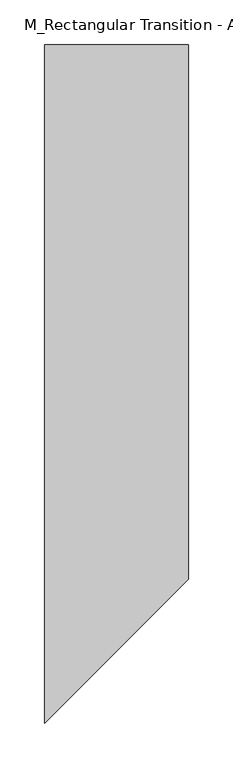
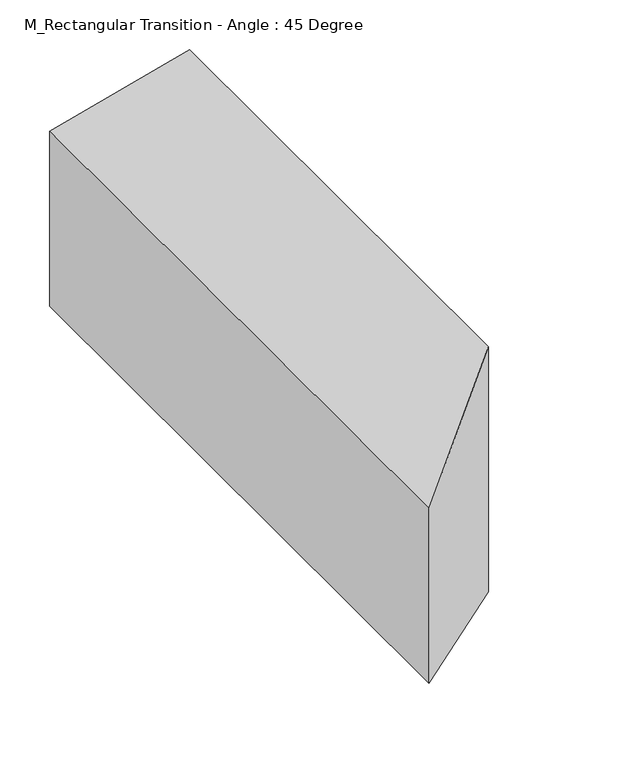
"""IFC4 building model written with IfcOpenShell, lengths in millimetres: duct fitting geometry, M_Rectangular Transition - Angle : 45 Degree."""

from ifc_helpers import new_model, si_unit, origin, place, context, project, spatial, faceted_brep, source, transform, mapped, element, save


def m_rectangular_transition_angle_45_degree_cf32fe34(model_context):
    return source(origin(), model_context, "Body", "Brep", [
        faceted_brep([(161.875, -219.0625, 149.9982267), (161.875, -219.0625, -150.0017733), (161.875, 380.9375, -150.0017733), (161.875, 380.9375, 149.9982267), (0.0, -380.9375, 107.1375), (0.0, 380.9375, 107.1375), (0.0, 380.9375, -107.1375), (0.0, -380.9375, -107.1375)], [[[0, 1, 2, 3]], [[4, 5, 6, 7]], [[4, 7, 1, 0]], [[7, 6, 2, 1]], [[6, 5, 3, 2]], [[5, 4, 0, 3]]]),
    ])


if __name__ == "__main__":
    model = new_model("IFC4")
    model_context = context("Model", 3, world=origin())
    ifc_project = project(units=[si_unit("LENGTHUNIT", "METRE", prefix="MILLI")], contexts=[model_context])
    site = spatial("IfcSite", under=ifc_project)
    building = spatial("IfcBuilding", under=site)
    placement = place(None, origin())
    m_rectangular_transition_angle_45_degree_shape = m_rectangular_transition_angle_45_degree_cf32fe34(model_context)
    element("IfcDuctFitting", 1, ObjectType="M_Rectangular Transition - Angle : 45 Degree", at=placement, inside=building, context=model_context, shape_type="MappedRepresentation", body=[
        mapped(m_rectangular_transition_angle_45_degree_shape, transform((0.0, 0.0, 0.0), x_axis=(1.0, 0.0, 0.0), y_axis=(0.0, 1.0, 0.0), z_axis=(0.0, 0.0, 1.0))),
    ])
    save(model, "model.ifc")
